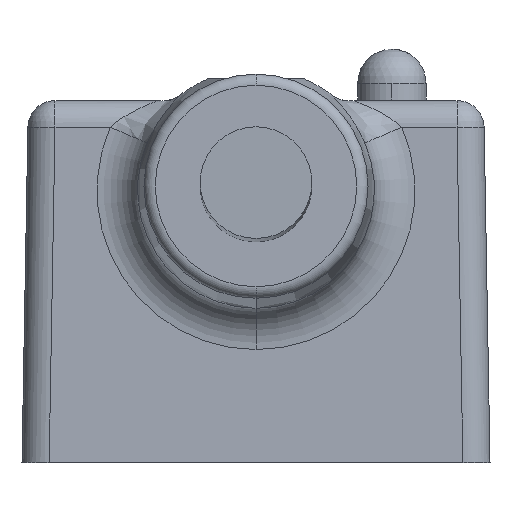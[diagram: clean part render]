
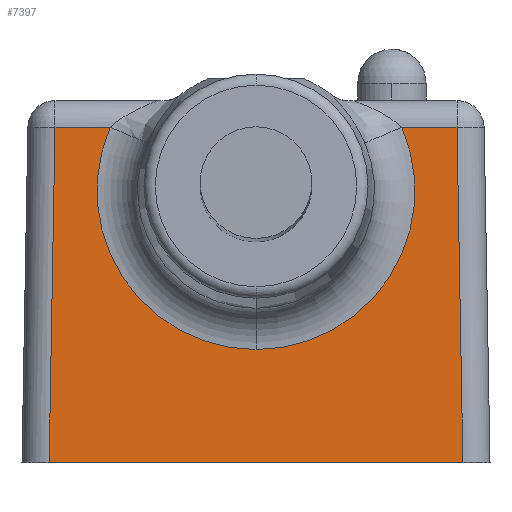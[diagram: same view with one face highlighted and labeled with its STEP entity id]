
A CAD part, top view. The second image highlights one B-rep face of the part: STEP entity #7397.
In plain terms, the highlighted planar face has unit normal (0, 0.018, 1).
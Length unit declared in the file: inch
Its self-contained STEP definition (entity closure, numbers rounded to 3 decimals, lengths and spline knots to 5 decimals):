
#211 = CARTESIAN_POINT ( 'NONE',  ( 1.00106, 0.77059, -0.01345 ) ) ;
#384 = PLANE ( 'NONE',  #8567 ) ;
#394 = CARTESIAN_POINT ( 'NONE',  ( 0.07594, 0.77059, -0.01345 ) ) ;
#629 = DIRECTION ( 'NONE',  ( 0., -1., 0.017 ) ) ;
#704 = CARTESIAN_POINT ( 'NONE',  ( 0., 0.77059, -0.01345 ) ) ;
#1061 = DIRECTION ( 'NONE',  ( 0., -1., 0.017 ) ) ;
#1252 = CARTESIAN_POINT ( 'NONE',  ( 0., 0.77059, -0.01345 ) ) ;
#1541 = LINE ( 'NONE', #5103, #13438 ) ;
#2401 = AXIS2_PLACEMENT_3D ( 'NONE', #13602, #9942, #14829 ) ;
#3422 = DIRECTION ( 'NONE',  ( 0., -0.017, -1. ) ) ;
#3770 = ORIENTED_EDGE ( 'NONE', *, *, #6005, .T. ) ;
#3902 = CARTESIAN_POINT ( 'NONE',  ( 0.87414, 0.77059, -0.01345 ) ) ;
#4138 = ORIENTED_EDGE ( 'NONE', *, *, #13482, .T. ) ;
#4184 = VERTEX_POINT ( 'NONE', #13954 ) ;
#4253 = DIRECTION ( 'NONE',  ( -0.017, 1., -0.017 ) ) ;
#4366 = CARTESIAN_POINT ( 'NONE',  ( 1.01451, 0., 0. ) ) ;
#4397 = EDGE_CURVE ( 'NONE', #10666, #13025, #8915, .T. ) ;
#4570 = EDGE_LOOP ( 'NONE', ( #11499, #4138, #3770, #14115, #12876, #14119, #10999 ) ) ;
#4975 = CIRCLE ( 'NONE', #9599, 0.36591 ) ;
#5103 = CARTESIAN_POINT ( 'NONE',  ( 0., 0., 0. ) ) ;
#5250 = VERTEX_POINT ( 'NONE', #11044 ) ;
#5835 = CARTESIAN_POINT ( 'NONE',  ( 0.5385, 0.6249, -0.01091 ) ) ;
#6005 = EDGE_CURVE ( 'NONE', #11196, #5250, #14714, .T. ) ;
#6251 = DIRECTION ( 'NONE',  ( -1., 0., 0. ) ) ;
#6390 = CARTESIAN_POINT ( 'NONE',  ( 0.06247, -0.00109, 0.00002 ) ) ;
#6672 = DIRECTION ( 'NONE',  ( -1., 0., 0. ) ) ;
#6755 = VECTOR ( 'NONE', #4253, 39.37008 ) ;
#7136 = VERTEX_POINT ( 'NONE', #3902 ) ;
#7165 = EDGE_CURVE ( 'NONE', #12437, #4184, #13519, .T. ) ;
#7397 = ADVANCED_FACE ( 'NONE', ( #15183 ), #384, .T. ) ;
#7871 = EDGE_CURVE ( 'NONE', #4184, #10666, #1541, .T. ) ;
#8567 = AXIS2_PLACEMENT_3D ( 'NONE', #12756, #10382, #629 ) ;
#8915 = LINE ( 'NONE', #12820, #6755 ) ;
#9153 = LINE ( 'NONE', #704, #15312 ) ;
#9599 = AXIS2_PLACEMENT_3D ( 'NONE', #5835, #3422, #1061 ) ;
#9942 = DIRECTION ( 'NONE',  ( 0., -0.017, -1. ) ) ;
#10382 = DIRECTION ( 'NONE',  ( 0., 0.017, 1. ) ) ;
#10666 = VERTEX_POINT ( 'NONE', #4366 ) ;
#10947 = EDGE_CURVE ( 'NONE', #13025, #7136, #9153, .T. ) ;
#10999 = ORIENTED_EDGE ( 'NONE', *, *, #4397, .T. ) ;
#11044 = CARTESIAN_POINT ( 'NONE',  ( 0.20286, 0.77059, -0.01345 ) ) ;
#11196 = VERTEX_POINT ( 'NONE', #14333 ) ;
#11224 = DIRECTION ( 'NONE',  ( 1., 0., 0. ) ) ;
#11499 = ORIENTED_EDGE ( 'NONE', *, *, #10947, .T. ) ;
#12062 = LINE ( 'NONE', #1252, #12327 ) ;
#12327 = VECTOR ( 'NONE', #6251, 39.37008 ) ;
#12404 = DIRECTION ( 'NONE',  ( -0.017, -1., 0.017 ) ) ;
#12437 = VERTEX_POINT ( 'NONE', #394 ) ;
#12627 = VECTOR ( 'NONE', #12404, 39.37008 ) ;
#12756 = CARTESIAN_POINT ( 'NONE',  ( 0., 0., 0. ) ) ;
#12820 = CARTESIAN_POINT ( 'NONE',  ( 1.0142, 0.0177, -0.00031 ) ) ;
#12876 = ORIENTED_EDGE ( 'NONE', *, *, #7165, .T. ) ;
#13025 = VERTEX_POINT ( 'NONE', #211 ) ;
#13438 = VECTOR ( 'NONE', #11224, 39.37008 ) ;
#13482 = EDGE_CURVE ( 'NONE', #7136, #11196, #4975, .T. ) ;
#13519 = LINE ( 'NONE', #6390, #12627 ) ;
#13602 = CARTESIAN_POINT ( 'NONE',  ( 0.5385, 0.6249, -0.01091 ) ) ;
#13954 = CARTESIAN_POINT ( 'NONE',  ( 0.06249, 0., 0. ) ) ;
#14115 = ORIENTED_EDGE ( 'NONE', *, *, #14575, .T. ) ;
#14119 = ORIENTED_EDGE ( 'NONE', *, *, #7871, .T. ) ;
#14333 = CARTESIAN_POINT ( 'NONE',  ( 0.5385, 0.25905, -0.00452 ) ) ;
#14575 = EDGE_CURVE ( 'NONE', #5250, #12437, #12062, .T. ) ;
#14714 = CIRCLE ( 'NONE', #2401, 0.36591 ) ;
#14829 = DIRECTION ( 'NONE',  ( 0., -1., 0.017 ) ) ;
#15183 = FACE_OUTER_BOUND ( 'NONE', #4570, .T. ) ;
#15312 = VECTOR ( 'NONE', #6672, 39.37008 ) ;
